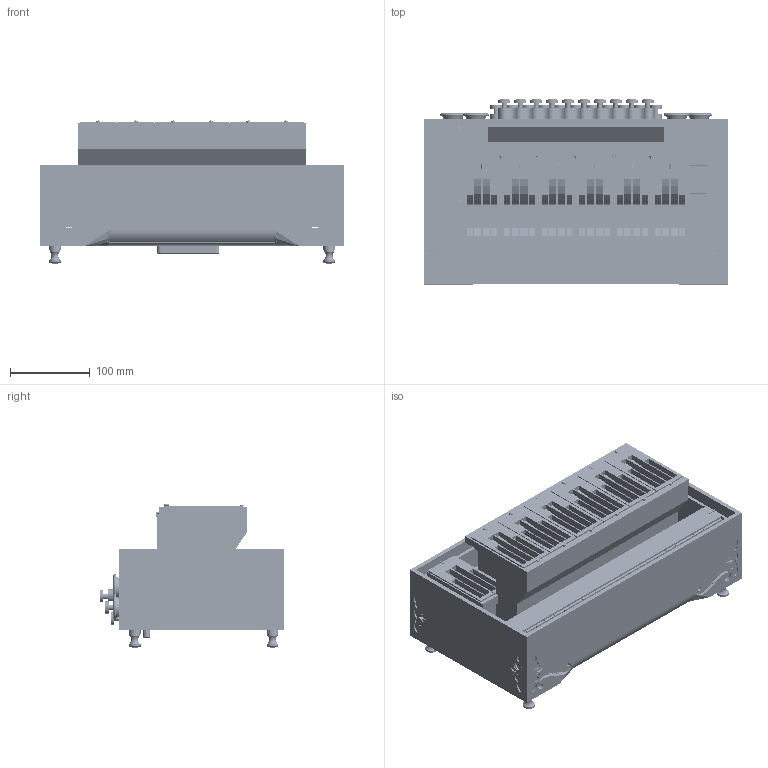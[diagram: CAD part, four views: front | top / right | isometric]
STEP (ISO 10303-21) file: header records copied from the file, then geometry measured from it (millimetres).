
FILE_DESCRIPTION(('Open CASCADE Model'),'2;1');
FILE_NAME('Open CASCADE Shape Model','2026-11-26T12:07:37',('Author'),( 'Open CASCADE'),'Open CASCADE STEP processor 7.9','Open CASCADE 7.9' ,'Unknown');
FILE_SCHEMA(('AUTOMOTIVE_DESIGN { 1 0 10303 214 1 1 1 1 }'));
Length unit declared in the file: millimetre
Products named in the file (659): Bassteil_Gerhard; Front; Rueckteil; Seitenteil_links; Seitenteil_rechts; Bassboden; Horn_1; Horn_2; Horn_3; Horn_4; Frontblende_R2; Frontblende_R3; Knopf_R1_121; Knopfzylinder_R1_121; Filzeinlage_R1_121; Knopf_R1_141; Knopfzylinder_R1_141; Filzeinlage_R1_141; Knopf_R1_161; Knopfzylinder_R1_161; Filzeinlage_R1_161; Knopf_R1_181; Knopfzylinder_R1_181; Filzeinlage_R1_181; Knopf_R1_201; Knopfzylinder_R1_201; Filzeinlage_R1_201; Knopf_R1_221; Knopfzylinder_R1_221; Filzeinlage_R1_221; Knopf_R1_241; Knopfzylinder_R1_241; Filzeinlage_R1_241; Knopf_R1_261; Knopfzylinder_R1_261; Filzeinlage_R1_261; Knopf_R2_91; Knopfzylinder_R2_91; Filzeinlage_R2_91; Knopf_R2_111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
Assembly tree (658 placements, depth 2):
  Bassteil_Gerhard
    Front
    Rueckteil
    Seitenteil_links
    Seitenteil_rechts
    Bassboden
    Horn_1
    Horn_2
    Horn_3
    Horn_4
    Frontblende_R2
    Frontblende_R3
    Knopf_R1_121
    Knopfzylinder_R1_121
    Filzeinlage_R1_121
    Knopf_R1_141
    Knopfzylinder_R1_141
    Filzeinlage_R1_141
    Knopf_R1_161
    Knopfzylinder_R1_161
    Filzeinlage_R1_161
    Knopf_R1_181
    Knopfzylinder_R1_181
    Filzeinlage_R1_181
    Knopf_R1_201
    Knopfzylinder_R1_201
    Filzeinlage_R1_201
    Knopf_R1_221
    Knopfzylinder_R1_221
    Filzeinlage_R1_221
    Knopf_R1_241
    Knopfzylinder_R1_241
    Filzeinlage_R1_241
    Knopf_R1_261
    Knopfzylinder_R1_261
    Filzeinlage_R1_261
    Knopf_R2_91
    Knopfzylinder_R2_91
    Filzeinlage_R2_91
    Knopf_R2_111
    Knopfzylinder_R2_111
    Filzeinlage_R2_111
    Knopf_R2_131
    Knopfzylinder_R2_131
    Filzeinlage_R2_131
    Knopf_R2_151
    Knopfzylinder_R2_151
    Filzeinlage_R2_151
    Knopf_R2_171
    Knopfzylinder_R2_171
    Filzeinlage_R2_171
    Knopf_R2_191
    Knopfzylinder_R2_191
    Filzeinlage_R2_191
    Knopf_R2_211
    Knopfzylinder_R2_211
    Filzeinlage_R2_211
    Knopf_R2_231
    Knopfzylinder_R2_231
    Filzeinlage_R2_231
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Bounding box: 382 x 232 x 179.81 mm (x, y, z)
Volume: 2761773.1 mm3; surface area: 1951395.8 mm2
Topology: 669 solids, 669 shells, 20201 faces, 55761 edges, 36637 vertices
Faces by surface type: plane 17700, cylinder 1695, sphere 315, cone 312, revolution 144, bspline 33, torus 2
Full cylindrical faces by diameter (mm): 0.5 x158, 1 x1, 1.08 x1, 1.1 x44, 1.4 x80, 1.5 x150, 1.6 x2, 1.8 x46, 2 x1, 2.05 x3, 2.4 x276, 2.5 x114, 2.6 x4, 2.7 x2, 3 x9, 3.1 x1, 3.5 x4, 4 x151, 5 x13, 6 x1, 6.5 x58, 8 x50, 8.5 x16, 9.5 x8, 10 x10, 12 x32, 12.5 x4, 13 x4, 13.5 x8, 14 x4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
Entity records: 1474956 total; most frequent: CARTESIAN_POINT 344123, DIRECTION 206662, LINE 151423, VECTOR 151423, ORIENTED_EDGE 110730, PCURVE 110728, DEFINITIONAL_REPRESENTATION 110728, EDGE_CURVE 55364
